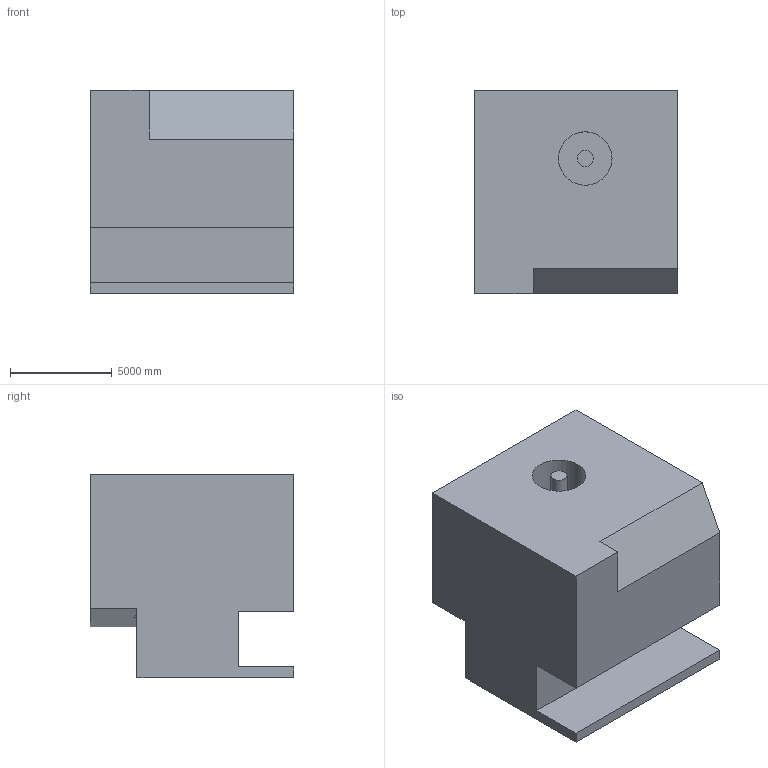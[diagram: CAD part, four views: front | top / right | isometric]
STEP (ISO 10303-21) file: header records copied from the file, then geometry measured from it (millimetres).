
FILE_DESCRIPTION (( 'STEP AP203' ), '1' );
FILE_NAME ('500.STEP', '2022-07-29T11:32:02', ( 'user' ), ( '' ), 'SwSTEP 2.0', 'SolidWorks 2021', '' );
FILE_SCHEMA (( 'CONFIG_CONTROL_DESIGN' ));
Length unit declared in the file: centimetre
Products named in the file (1): 500
Bounding box: 10000 x 10000 x 10000 mm (x, y, z)
Volume: 801959049979 mm3; surface area: 714212909.9 mm2
Topology: 1 solids, 1 shells, 31 faces, 78 edges, 52 vertices
Faces by surface type: plane 20, cylinder 11
Entity records: 1048 total; most frequent: CARTESIAN_POINT 215, DIRECTION 156, ORIENTED_EDGE 156, EDGE_CURVE 78, VECTOR 54, LINE 54, VERTEX_POINT 52, AXIS2_PLACEMENT_3D 51
